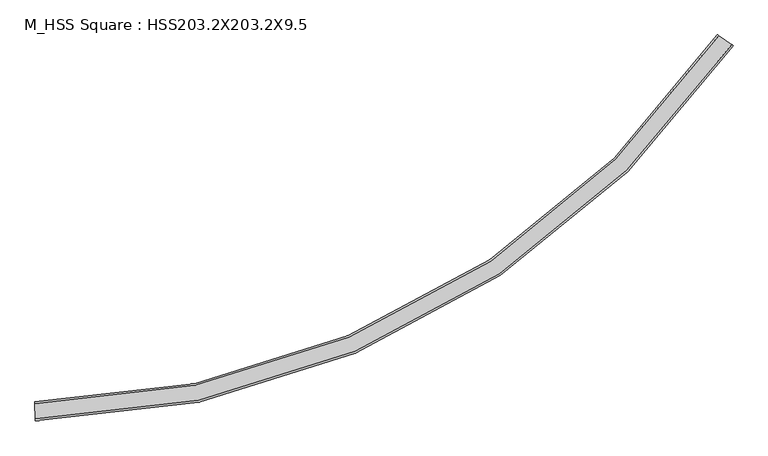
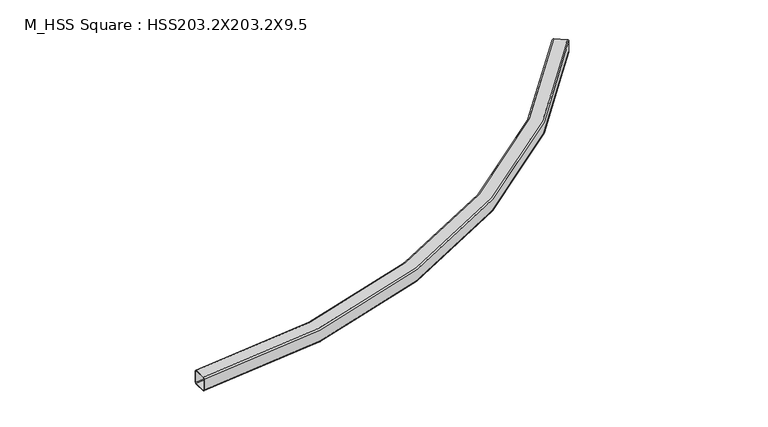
"""IFC4 building model written with IfcOpenShell, lengths in millimetres: beam geometry, M_HSS Square : HSS203.2X203.2X9.5."""

from ifc_helpers import new_model, si_unit, point, frame, origin, place, context, project, spatial, polyline, circle_curve, ellipse_curve, trimmed, source, transform, mapped, element, save
from ifc_brep_helpers import plane_surface, cylinder_surface, revolved_surface, advanced_brep


def m_hss_square_hss203_2x203_2x9_5_f31329aa(model_context):
    return source(origin(), model_context, "Body", "AdvancedBrep", [
        advanced_brep(
        [(164.8408779, 103.0025186, 82.44), (164.8408779, 103.0025186, -82.44), (165.1883114, 83.9456855, -101.5), (168.1938122, -80.9069195, -101.5), (168.5412458, -99.9637526, -82.44), (168.5412458, -99.9637526, 82.44), (168.1938122, -80.9069195, 101.5), (165.1883114, 83.9456855, 101.5), (168.1938122, -80.9069195, 91.97), (168.367529, -90.4353361, 82.44), (168.367529, -90.4353361, -82.44), (168.1938122, -80.9069195, -91.97), (165.1883114, 83.9456855, -91.97), (165.0145947, 93.4741021, -82.44), (165.0145947, 93.4741021, 82.44), (165.1883114, 83.9456855, 91.97), (7450.0863149, 4018.815879, 82.44), (7465.7887912, 4008.0123685, 101.5), (7601.6242734, 3914.5557681, 101.5), (7617.3267497, 3903.7522576, 82.44), (7617.3267497, 3903.7522576, -82.44), (7601.6242734, 3914.5557681, -101.5), (7465.7887912, 4008.0123685, -101.5), (7450.0863149, 4018.815879, -82.44), (7601.6242734, 3914.5557681, 91.97), (7465.7887912, 4008.0123685, 91.97), (7457.9375531, 4013.4141238, 82.44), (7457.9375531, 4013.4141238, -82.44), (7465.7887912, 4008.0123685, -91.97), (7601.6242734, 3914.5557681, -91.97), (7609.4755116, 3909.1540128, -82.44), (7609.4755116, 3909.1540128, 82.44)],
        [
            (0, 1),
            (1, 2, circle_curve(frame((165.1883114, 83.9456855, -82.44), z_axis=(-0.9998338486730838, -0.018228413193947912, 0.0), x_axis=(0.018228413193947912, -0.9998338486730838, 0.0)), 19.06)),
            (2, 3),
            (3, 4, circle_curve(frame((168.1938122, -80.9069195, -82.44), z_axis=(-0.9998338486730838, -0.018228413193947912, 0.0), x_axis=(0.018228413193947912, -0.9998338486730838, 0.0)), 19.06)),
            (4, 5),
            (5, 6, circle_curve(frame((168.1938122, -80.9069195, 82.44), z_axis=(-0.9998338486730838, -0.018228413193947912, 0.0), x_axis=(0.018228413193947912, -0.9998338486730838, 0.0)), 19.06)),
            (6, 7),
            (7, 0, circle_curve(frame((165.1883114, 83.9456855, 82.44), z_axis=(-0.9998338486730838, -0.018228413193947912, 0.0), x_axis=(0.018228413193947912, -0.9998338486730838, 0.0)), 19.06)),
            (8, 9, circle_curve(frame((168.1938122, -80.9069195, 82.44), z_axis=(0.9998338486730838, 0.018228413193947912, 0.0), x_axis=(0.018228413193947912, -0.9998338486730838, 0.0)), 9.53)),
            (9, 10),
            (10, 11, circle_curve(frame((168.1938122, -80.9069195, -82.44), z_axis=(0.9998338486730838, 0.018228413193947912, 0.0), x_axis=(0.018228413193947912, -0.9998338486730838, 0.0)), 9.53)),
            (11, 12),
            (12, 13, circle_curve(frame((165.1883114, 83.9456855, -82.44), z_axis=(0.9998338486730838, 0.018228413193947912, 0.0), x_axis=(0.018228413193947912, -0.9998338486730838, 0.0)), 9.53)),
            (13, 14),
            (14, 15, circle_curve(frame((165.1883114, 83.9456855, 82.44), z_axis=(0.9998338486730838, 0.018228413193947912, 0.0), x_axis=(0.018228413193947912, -0.9998338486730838, 0.0)), 9.53)),
            (15, 8),
            (16, 17, circle_curve(frame((7465.7887912, 4008.0123685, 82.44), z_axis=(0.5668158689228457, 0.8238445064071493, 0.0), x_axis=(0.8238445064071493, -0.5668158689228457, 0.0)), 19.06)),
            (17, 18),
            (18, 19, circle_curve(frame((7601.6242734, 3914.5557681, 82.44), z_axis=(0.5668158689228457, 0.8238445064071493, 0.0), x_axis=(0.8238445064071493, -0.5668158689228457, 0.0)), 19.06)),
            (19, 20),
            (20, 21, circle_curve(frame((7601.6242734, 3914.5557681, -82.44), z_axis=(0.5668158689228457, 0.8238445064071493, 0.0), x_axis=(0.8238445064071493, -0.5668158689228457, 0.0)), 19.06)),
            (21, 22),
            (22, 23, circle_curve(frame((7465.7887912, 4008.0123685, -82.44), z_axis=(0.5668158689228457, 0.8238445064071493, 0.0), x_axis=(0.8238445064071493, -0.5668158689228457, 0.0)), 19.06)),
            (23, 16),
            (24, 25),
            (25, 26, circle_curve(frame((7465.7887912, 4008.0123685, 82.44), z_axis=(-0.5668158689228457, -0.8238445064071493, 0.0), x_axis=(0.8238445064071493, -0.5668158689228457, 0.0)), 9.53)),
            (26, 27),
            (27, 28, circle_curve(frame((7465.7887912, 4008.0123685, -82.44), z_axis=(-0.5668158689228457, -0.8238445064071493, 0.0), x_axis=(0.8238445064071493, -0.5668158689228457, 0.0)), 9.53)),
            (28, 29),
            (29, 30, circle_curve(frame((7601.6242734, 3914.5557681, -82.44), z_axis=(-0.5668158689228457, -0.8238445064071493, 0.0), x_axis=(0.8238445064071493, -0.5668158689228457, 0.0)), 9.53)),
            (30, 31),
            (31, 24, circle_curve(frame((7601.6242734, 3914.5557681, 82.44), z_axis=(-0.5668158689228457, -0.8238445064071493, 0.0), x_axis=(0.8238445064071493, -0.5668158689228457, 0.0)), 9.53)),
            (7, 17, circle_curve(frame((0.0, 9144.5733676, 101.5), z_axis=(0.0, 0.0, 1.0), x_axis=(0.8332810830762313, -0.5528495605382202, 0.0)), 9062.1333676)),
            (16, 0, circle_curve(frame((0.0, 9144.5733676, 82.44), z_axis=(0.0, 0.0, -1.0), x_axis=(0.8332810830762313, -0.5528495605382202, 0.0)), 9043.0733676)),
            (6, 18, circle_curve(frame((0.0, 9144.5733676, 101.5), z_axis=(0.0, 0.0, 1.0), x_axis=(0.8332810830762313, -0.5528495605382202, 0.0)), 9227.0133676)),
            (5, 19, circle_curve(frame((0.0, 9144.5733676, 82.44), z_axis=(0.0, 0.0, 1.0), x_axis=(0.8332810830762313, -0.5528495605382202, 0.0)), 9246.0733676)),
            (4, 20, circle_curve(frame((0.0, 9144.5733676, -82.44), z_axis=(0.0, 0.0, 1.0), x_axis=(0.8332810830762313, -0.5528495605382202, 0.0)), 9246.0733676)),
            (3, 21, circle_curve(frame((0.0, 9144.5733676, -101.5), z_axis=(0.0, 0.0, 1.0), x_axis=(0.8332810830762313, -0.5528495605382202, 0.0)), 9227.0133676)),
            (2, 22, circle_curve(frame((0.0, 9144.5733676, -101.5), z_axis=(0.0, 0.0, 1.0), x_axis=(0.8332810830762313, -0.5528495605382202, 0.0)), 9062.1333676)),
            (1, 23, circle_curve(frame((0.0, 9144.5733676, -82.44), z_axis=(0.0, 0.0, 1.0), x_axis=(0.8332810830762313, -0.5528495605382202, 0.0)), 9043.0733676)),
            (15, 25, circle_curve(frame((0.0, 9144.5733676, 91.97), z_axis=(0.0, 0.0, 1.0), x_axis=(0.8332810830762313, -0.5528495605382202, 0.0)), 9062.1333676)),
            (24, 8, circle_curve(frame((0.0, 9144.5733676, 91.97), z_axis=(0.0, 0.0, -1.0), x_axis=(0.8332810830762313, -0.5528495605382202, 0.0)), 9227.0133676)),
            (14, 26, circle_curve(frame((0.0, 9144.5733676, 82.44), z_axis=(0.0, 0.0, 1.0), x_axis=(0.8332810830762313, -0.5528495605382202, 0.0)), 9052.6033676)),
            (13, 27, circle_curve(frame((0.0, 9144.5733676, -82.44), z_axis=(0.0, 0.0, 1.0), x_axis=(0.8332810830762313, -0.5528495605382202, 0.0)), 9052.6033676)),
            (12, 28, circle_curve(frame((0.0, 9144.5733676, -91.97), z_axis=(0.0, 0.0, 1.0), x_axis=(0.8332810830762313, -0.5528495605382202, 0.0)), 9062.1333676)),
            (11, 29, circle_curve(frame((0.0, 9144.5733676, -91.97), z_axis=(0.0, 0.0, 1.0), x_axis=(0.8332810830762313, -0.5528495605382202, 0.0)), 9227.0133676)),
            (10, 30, circle_curve(frame((0.0, 9144.5733676, -82.44), z_axis=(0.0, 0.0, 1.0), x_axis=(0.8332810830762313, -0.5528495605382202, 0.0)), 9236.5433676)),
            (9, 31, circle_curve(frame((0.0, 9144.5733676, 82.44), z_axis=(0.0, 0.0, 1.0), x_axis=(0.8332810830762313, -0.5528495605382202, 0.0)), 9236.5433676)),
        ],
        [
            plane_surface(frame((166.6910618, 1.519383, 0.0), z_axis=(-0.9998338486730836, -0.018228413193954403, 0.0), x_axis=(0.0, 0.0, 1.0))),
            plane_surface(frame((7533.7065323, 3961.2840683, 0.0), z_axis=(0.5668158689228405, 0.823844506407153, 0.0), x_axis=(0.0, 0.0, 1.0))),
            revolved_surface(trimmed(ellipse_curve(frame((7551.3043075, 4134.5769178, 82.44), z_axis=(0.5528495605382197, 0.8332810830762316, 0.0), x_axis=(0.8332810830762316, -0.5528495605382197, 0.0)), 19.06, 19.06), [point((7535.4219701, 4145.1142304, 82.44))], [point((7551.3043075, 4134.5769178, 101.5))], True, "CARTESIAN"), (0.0, 9144.5733676, 0.0), (0.0, 0.0, -1.0000000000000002)),
            plane_surface(frame((0.0, 9144.5733676, 101.5), z_axis=(0.0, 0.0, 1.0000000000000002), x_axis=(0.8332810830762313, -0.5528495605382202, 0.0))),
            revolved_surface(trimmed(ellipse_curve(frame((7688.6956925, 4043.4230822, 82.44), z_axis=(0.5528495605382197, 0.8332810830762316, 0.0), x_axis=(0.8332810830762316, -0.5528495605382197, 0.0)), 19.06, 19.06), [point((7688.6956925, 4043.4230822, 101.5))], [point((7704.5780299, 4032.8857696, 82.44))], True, "CARTESIAN"), (0.0, 9144.5733676, 0.0), (0.0, 0.0, -1.0000000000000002)),
            cylinder_surface(frame((0.0, 9144.5733676, 0.0), z_axis=(0.0, 0.0, -1.0000000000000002), x_axis=(0.8332810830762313, -0.5528495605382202, 0.0)), 9246.0733676),
            revolved_surface(trimmed(ellipse_curve(frame((7688.6956925, 4043.4230822, -82.44), z_axis=(0.5528495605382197, 0.8332810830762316, 0.0), x_axis=(0.8332810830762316, -0.5528495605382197, 0.0)), 19.06, 19.06), [point((7704.5780299, 4032.8857696, -82.44))], [point((7688.6956925, 4043.4230822, -101.5))], True, "CARTESIAN"), (0.0, 9144.5733676, 0.0), (0.0, 0.0, -1.0000000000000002)),
            plane_surface(frame((0.0, 9144.5733676, -101.5), z_axis=(0.0, 0.0, -1.0000000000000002), x_axis=(0.8332810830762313, -0.5528495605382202, 0.0))),
            revolved_surface(trimmed(ellipse_curve(frame((7551.3043075, 4134.5769178, -82.44), z_axis=(0.5528495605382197, 0.8332810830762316, 0.0), x_axis=(0.8332810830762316, -0.5528495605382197, 0.0)), 19.06, 19.06), [point((7551.3043075, 4134.5769178, -101.5))], [point((7535.4219701, 4145.1142304, -82.44))], True, "CARTESIAN"), (0.0, 9144.5733676, 0.0), (0.0, 0.0, -1.0000000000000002)),
            revolved_surface(polyline([(7535.42197009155, 4145.1142304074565, -82.44000000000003), (7535.42197009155, 4145.1142304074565, 82.44000000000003)]), (0.0, 9144.5733676, 0.0), (0.0, 0.0, -1.0000000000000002)),
            plane_surface(frame((0.0, 9144.5733676, 91.97), z_axis=(0.0, 0.0, -1.0000000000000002), x_axis=(0.8332810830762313, -0.5528495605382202, 0.0))),
            revolved_surface(trimmed(ellipse_curve(frame((7551.3043075, 4134.5769178, 82.44), z_axis=(-0.5528495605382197, -0.8332810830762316, 0.0), x_axis=(0.8332810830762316, -0.5528495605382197, 0.0)), 9.53, 9.53), [point((7551.3043075, 4134.5769178, 91.97))], [point((7543.3631388, 4139.8455741, 82.44))], True, "CARTESIAN"), (0.0, 9144.5733676, 0.0), (0.0, 0.0, -1.0000000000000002)),
            cylinder_surface(frame((0.0, 9144.5733676, 0.0), z_axis=(0.0, 0.0, -1.0000000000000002), x_axis=(0.8332810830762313, -0.5528495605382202, 0.0)), 9052.6033676),
            revolved_surface(trimmed(ellipse_curve(frame((7551.3043075, 4134.5769178, -82.44), z_axis=(-0.5528495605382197, -0.8332810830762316, 0.0), x_axis=(0.8332810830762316, -0.5528495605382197, 0.0)), 9.53, 9.53), [point((7543.3631388, 4139.8455741, -82.44))], [point((7551.3043075, 4134.5769178, -91.97))], True, "CARTESIAN"), (0.0, 9144.5733676, 0.0), (0.0, 0.0, -1.0000000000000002)),
            plane_surface(frame((0.0, 9144.5733676, -91.97), z_axis=(0.0, 0.0, 1.0000000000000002), x_axis=(0.8332810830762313, -0.5528495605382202, 0.0))),
            revolved_surface(trimmed(ellipse_curve(frame((7688.6956925, 4043.4230822, -82.44), z_axis=(-0.5528495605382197, -0.8332810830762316, 0.0), x_axis=(0.8332810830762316, -0.5528495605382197, 0.0)), 9.53, 9.53), [point((7688.6956925, 4043.4230822, -91.97))], [point((7696.6368612, 4038.1544259, -82.44))], True, "CARTESIAN"), (0.0, 9144.5733676, 0.0), (0.0, 0.0, -1.0000000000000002)),
            revolved_surface(polyline([(7696.636861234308, 4038.154425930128, -82.44000000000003), (7696.636861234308, 4038.154425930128, 82.44000000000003)]), (0.0, 9144.5733676, 0.0), (0.0, 0.0, -1.0000000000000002)),
            revolved_surface(trimmed(ellipse_curve(frame((7688.6956925, 4043.4230822, 82.44), z_axis=(-0.5528495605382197, -0.8332810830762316, 0.0), x_axis=(0.8332810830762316, -0.5528495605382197, 0.0)), 9.53, 9.53), [point((7696.6368612, 4038.1544259, 82.44))], [point((7688.6956925, 4043.4230822, 91.97))], True, "CARTESIAN"), (0.0, 9144.5733676, 0.0), (0.0, 0.0, -1.0000000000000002)),
        ],
        [
            (0, [[1, 2, 3, 4, 5, 6, 7, 8], [9, 10, 11, 12, 13, 14, 15, 16]]),
            (1, [[17, 18, 19, 20, 21, 22, 23, 24], [25, 26, 27, 28, 29, 30, 31, 32]]),
            (2, [[33, -17, 34, -8]]),
            (3, [[35, -18, -33, -7]]),
            (4, [[36, -19, -35, -6]]),
            (5, [[37, -20, -36, -5]]),
            (6, [[38, -21, -37, -4]]),
            (7, [[39, -22, -38, -3]]),
            (8, [[40, -23, -39, -2]]),
            (9, [[-34, -24, -40, -1]]),
            (10, [[41, -25, 42, -16]]),
            (11, [[43, -26, -41, -15]]),
            (12, [[44, -27, -43, -14]]),
            (13, [[45, -28, -44, -13]]),
            (14, [[46, -29, -45, -12]]),
            (15, [[47, -30, -46, -11]]),
            (16, [[48, -31, -47, -10]]),
            (17, [[-42, -32, -48, -9]]),
        ],
    ),
    ])


if __name__ == "__main__":
    model = new_model("IFC4")
    model_context = context("Model", 3, world=origin())
    ifc_project = project(units=[si_unit("LENGTHUNIT", "METRE", prefix="MILLI")], contexts=[model_context])
    site = spatial("IfcSite", under=ifc_project)
    building = spatial("IfcBuilding", under=site)
    placement = place(None, origin())
    m_hss_square_hss203_2x203_2x9_5_shape = m_hss_square_hss203_2x203_2x9_5_f31329aa(model_context)
    element("IfcBeam", 1, ObjectType="M_HSS Square : HSS203.2X203.2X9.5", at=placement, inside=building, context=model_context, shape_type="MappedRepresentation", body=[
        mapped(m_hss_square_hss203_2x203_2x9_5_shape, transform((0.0, 0.0, 0.0), x_axis=(1.0, 0.0, 0.0), y_axis=(0.0, 1.0, 0.0), z_axis=(0.0, 0.0, 1.0))),
    ])
    save(model, "model.ifc")
